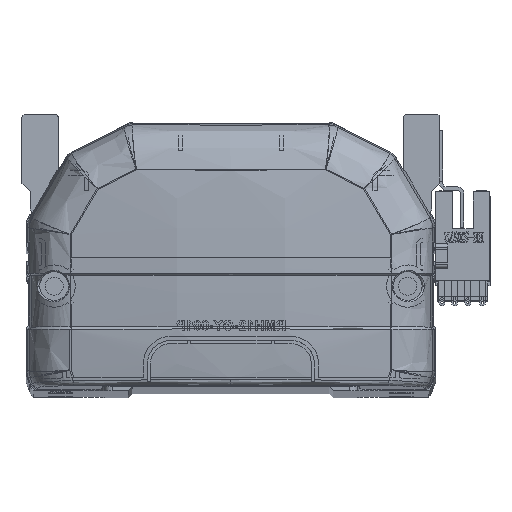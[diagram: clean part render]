
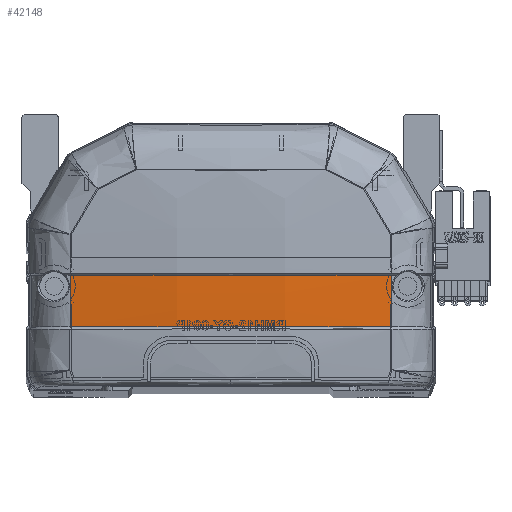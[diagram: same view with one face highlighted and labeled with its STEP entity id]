
A CAD part, top view. The second image highlights one B-rep face of the part: STEP entity #42148.
In plain terms, the highlighted free-form (B-spline) face has degree [3, 3] with [4, 4] control points.
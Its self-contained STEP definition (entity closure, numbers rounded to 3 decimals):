
#289 = CARTESIAN_POINT ( 'NONE',  ( -40.461, 15.757, -5.8 ) ) ;
#375 = CARTESIAN_POINT ( 'NONE',  ( -39.985, 15.83, -5.879 ) ) ;
#2009 = CARTESIAN_POINT ( 'NONE',  ( 39.963, 28.706, -6.372 ) ) ;
#3362 = CARTESIAN_POINT ( 'NONE',  ( 39.985, 15.83, -5.879 ) ) ;
#3531 = CARTESIAN_POINT ( 'NONE',  ( -39.985, 15.83, -5.879 ) ) ;
#3740 = ORIENTED_EDGE ( 'NONE', *, *, #33805, .F. ) ;
#4573 = B_SPLINE_CURVE_WITH_KNOTS ( 'NONE', 3,
 ( #41433, #44638, #18246, #18429 ),
 .UNSPECIFIED., .F., .F.,
 ( 4, 4 ),
 ( 0., 1. ),
 .UNSPECIFIED. ) ;
#4775 = CARTESIAN_POINT ( 'NONE',  ( -13.598, 24.342, -10.47 ) ) ;
#5376 = CARTESIAN_POINT ( 'NONE',  ( -39.985, 15.83, -5.879 ) ) ;
#6183 = FACE_OUTER_BOUND ( 'NONE', #32224, .T. ) ;
#9104 = ORIENTED_EDGE ( 'NONE', *, *, #48300, .T. ) ;
#11053 = CARTESIAN_POINT ( 'NONE',  ( 26.761, 15.83, -7.945 ) ) ;
#12147 = B_SPLINE_CURVE_WITH_KNOTS ( 'NONE', 3,
 ( #45656, #27717, #16242, #41017, #33503, #2009 ),
 .UNSPECIFIED., .F., .F.,
 ( 4, 2, 4 ),
 ( 0., 0.5, 1. ),
 .UNSPECIFIED. ) ;
#12581 = CARTESIAN_POINT ( 'NONE',  ( 39.985, 15.83, -5.879 ) ) ;
#12909 = B_SPLINE_CURVE_WITH_KNOTS ( 'NONE', 3,
 ( #3362, #11053, #37966, #45737, #14920, #49302, #41867, #30442, #22745, #3531 ),
 .UNSPECIFIED., .F., .F.,
 ( 4, 2, 2, 2, 4 ),
 ( 0., 0.04, 0.06, 0.07, 0.08 ),
 .UNSPECIFIED. ) ;
#14920 = CARTESIAN_POINT ( 'NONE',  ( -13.384, 15.83, -8.724 ) ) ;
#16145 = CARTESIAN_POINT ( 'NONE',  ( -39.963, 28.706, -6.372 ) ) ;
#16242 = CARTESIAN_POINT ( 'NONE',  ( -13.373, 28.707, -9.468 ) ) ;
#18246 = CARTESIAN_POINT ( 'NONE',  ( 39.966, 24.413, -6.306 ) ) ;
#18429 = CARTESIAN_POINT ( 'NONE',  ( 39.963, 28.706, -6.372 ) ) ;
#19673 = CARTESIAN_POINT ( 'NONE',  ( 40.461, 15.757, -5.8 ) ) ;
#19832 = CARTESIAN_POINT ( 'NONE',  ( 40.461, 24.47, -6.231 ) ) ;
#21122 = EDGE_CURVE ( 'NONE', #33705, #48637, #4573, .T. ) ;
#21310 = VERTEX_POINT ( 'NONE', #5376 ) ;
#22745 = CARTESIAN_POINT ( 'NONE',  ( -36.679, 15.83, -6.395 ) ) ;
#23378 = CARTESIAN_POINT ( 'NONE',  ( 40.461, 28.832, -6.296 ) ) ;
#23537 = CARTESIAN_POINT ( 'NONE',  ( -13.598, 15.499, -10.032 ) ) ;
#23693 = CARTESIAN_POINT ( 'NONE',  ( -40.461, 24.47, -6.231 ) ) ;
#23942 = CARTESIAN_POINT ( 'NONE',  ( -39.973, 20.118, -6.142 ) ) ;
#27261 = EDGE_CURVE ( 'NONE', #28866, #48637, #12147, .T. ) ;
#27370 = CARTESIAN_POINT ( 'NONE',  ( -13.598, 28.769, -10.535 ) ) ;
#27581 = ORIENTED_EDGE ( 'NONE', *, *, #21122, .T. ) ;
#27626 = CARTESIAN_POINT ( 'NONE',  ( -39.963, 28.706, -6.372 ) ) ;
#27717 = CARTESIAN_POINT ( 'NONE',  ( -26.748, 28.706, -8.432 ) ) ;
#28866 = VERTEX_POINT ( 'NONE', #16145 ) ;
#30442 = CARTESIAN_POINT ( 'NONE',  ( -33.365, 15.83, -6.848 ) ) ;
#31089 = CARTESIAN_POINT ( 'NONE',  ( 13.598, 15.499, -10.032 ) ) ;
#31581 = CARTESIAN_POINT ( 'NONE',  ( 13.598, 19.918, -10.302 ) ) ;
#31751 = CARTESIAN_POINT ( 'NONE',  ( -40.461, 28.832, -6.296 ) ) ;
#32224 = EDGE_LOOP ( 'NONE', ( #27581, #32635, #9104, #3740 ) ) ;
#32635 = ORIENTED_EDGE ( 'NONE', *, *, #27261, .F. ) ;
#33503 = CARTESIAN_POINT ( 'NONE',  ( 26.749, 28.706, -8.432 ) ) ;
#33705 = VERTEX_POINT ( 'NONE', #12581 ) ;
#33805 = EDGE_CURVE ( 'NONE', #33705, #21310, #12909, .T. ) ;
#35248 = CARTESIAN_POINT ( 'NONE',  ( 13.598, 24.342, -10.47 ) ) ;
#36648 = B_SPLINE_CURVE_WITH_KNOTS ( 'NONE', 3,
 ( #27626, #46956, #23942, #375 ),
 .UNSPECIFIED., .F., .F.,
 ( 4, 4 ),
 ( 0., 1. ),
 .UNSPECIFIED. ) ;
#37966 = CARTESIAN_POINT ( 'NONE',  ( 13.38, 15.83, -8.984 ) ) ;
#38944 = CARTESIAN_POINT ( 'NONE',  ( 40.461, 20.111, -6.066 ) ) ;
#39321 =( BOUNDED_SURFACE ( )  B_SPLINE_SURFACE ( 3, 3, ( 
 ( #19673, #38944, #19832, #23378 ),
 ( #31089, #31581, #35248, #46720 ),
 ( #23537, #47029, #4775, #27370 ),
 ( #289, #42661, #23693, #31751 ) ),
 .UNSPECIFIED., .F., .F., .T. ) 
 B_SPLINE_SURFACE_WITH_KNOTS ( ( 4, 4 ),
 ( 4, 4 ),
 ( 0., 1. ),
 ( 0., 1. ),
 .UNSPECIFIED. ) 
 GEOMETRIC_REPRESENTATION_ITEM ( )  RATIONAL_B_SPLINE_SURFACE ( (
 ( 1., 1., 1., 1.),
 ( 0.992, 0.992, 0.992, 0.992),
 ( 0.992, 0.992, 0.992, 0.992),
 ( 1., 1., 1., 1.) ) ) 
 REPRESENTATION_ITEM ( '' )  SURFACE ( )  );
#40108 = CARTESIAN_POINT ( 'NONE',  ( 39.963, 28.706, -6.372 ) ) ;
#41017 = CARTESIAN_POINT ( 'NONE',  ( 13.375, 28.707, -9.468 ) ) ;
#41433 = CARTESIAN_POINT ( 'NONE',  ( 39.985, 15.83, -5.879 ) ) ;
#41867 = CARTESIAN_POINT ( 'NONE',  ( -26.721, 15.83, -7.624 ) ) ;
#42148 = ADVANCED_FACE ( 'NONE', ( #6183 ), #39321, .F. ) ;
#42661 = CARTESIAN_POINT ( 'NONE',  ( -40.461, 20.111, -6.066 ) ) ;
#44638 = CARTESIAN_POINT ( 'NONE',  ( 39.973, 20.12, -6.142 ) ) ;
#45656 = CARTESIAN_POINT ( 'NONE',  ( -39.963, 28.706, -6.372 ) ) ;
#45737 = CARTESIAN_POINT ( 'NONE',  ( -6.692, 15.83, -8.984 ) ) ;
#46720 = CARTESIAN_POINT ( 'NONE',  ( 13.598, 28.769, -10.535 ) ) ;
#46956 = CARTESIAN_POINT ( 'NONE',  ( -39.966, 24.412, -6.306 ) ) ;
#47029 = CARTESIAN_POINT ( 'NONE',  ( -13.598, 19.918, -10.302 ) ) ;
#48300 = EDGE_CURVE ( 'NONE', #28866, #21310, #36648, .T. ) ;
#48637 = VERTEX_POINT ( 'NONE', #40108 ) ;
#49302 = CARTESIAN_POINT ( 'NONE',  ( -23.389, 15.83, -7.947 ) ) ;
